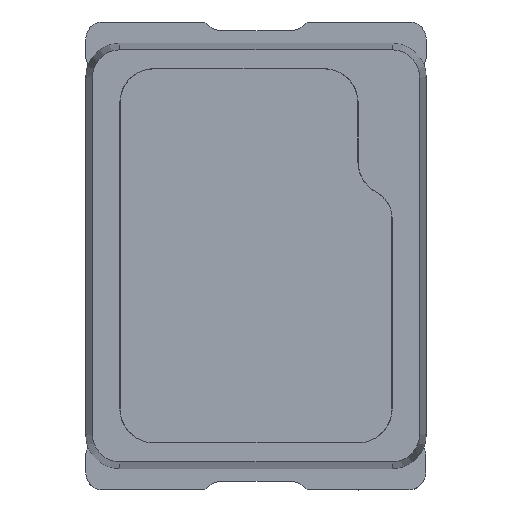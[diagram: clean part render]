
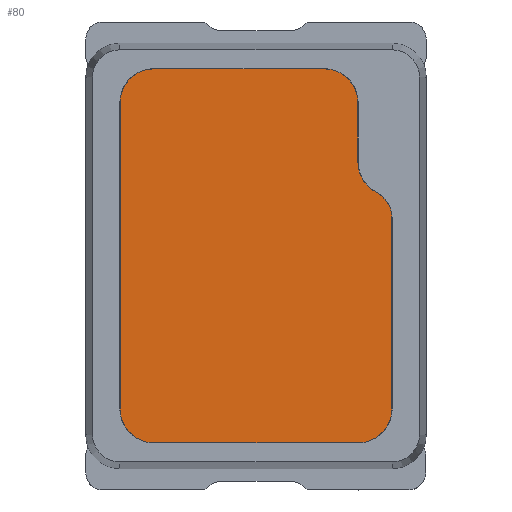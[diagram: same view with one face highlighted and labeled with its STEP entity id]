
A CAD part, top view. The second image highlights one B-rep face of the part: STEP entity #80.
In plain terms, the highlighted planar face has unit normal (0, 0, 1).
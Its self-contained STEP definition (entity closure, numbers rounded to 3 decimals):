
#80=ADVANCED_FACE('',(#173),#174,.T.);
#173=FACE_OUTER_BOUND('',#348,.T.);
#174=PLANE('',#349);
#348=EDGE_LOOP('',(#548,#549,#550,#551,#552,#553,#554,#555,#556,#557,#558,#559));
#349=AXIS2_PLACEMENT_3D('',#560,#561,#562);
#548=ORIENTED_EDGE('',*,*,#1282,.F.);
#549=ORIENTED_EDGE('',*,*,#1283,.F.);
#550=ORIENTED_EDGE('',*,*,#1284,.F.);
#551=ORIENTED_EDGE('',*,*,#1285,.F.);
#552=ORIENTED_EDGE('',*,*,#1286,.F.);
#553=ORIENTED_EDGE('',*,*,#1287,.F.);
#554=ORIENTED_EDGE('',*,*,#1288,.F.);
#555=ORIENTED_EDGE('',*,*,#1289,.F.);
#556=ORIENTED_EDGE('',*,*,#1290,.F.);
#557=ORIENTED_EDGE('',*,*,#1291,.F.);
#558=ORIENTED_EDGE('',*,*,#1292,.F.);
#559=ORIENTED_EDGE('',*,*,#1293,.F.);
#560=CARTESIAN_POINT('',(0.,0.,-0.01));
#561=DIRECTION('',(0.0,0.0,1.0));
#562=DIRECTION('',(0.,-1.0,0.0));
#1282=EDGE_CURVE('',#1546,#1547,#1548,.T.);
#1283=EDGE_CURVE('',#1549,#1546,#1550,.T.);
#1284=EDGE_CURVE('',#1551,#1549,#1552,.T.);
#1285=EDGE_CURVE('',#1553,#1551,#1554,.T.);
#1286=EDGE_CURVE('',#1555,#1553,#1556,.T.);
#1287=EDGE_CURVE('',#1557,#1555,#1558,.T.);
#1288=EDGE_CURVE('',#1559,#1557,#1560,.T.);
#1289=EDGE_CURVE('',#1561,#1559,#1562,.T.);
#1290=EDGE_CURVE('',#1563,#1561,#1564,.T.);
#1291=EDGE_CURVE('',#1565,#1563,#1566,.T.);
#1292=EDGE_CURVE('',#1567,#1565,#1568,.T.);
#1293=EDGE_CURVE('',#1547,#1567,#1569,.T.);
#1546=VERTEX_POINT('',#1960);
#1547=VERTEX_POINT('',#1961);
#1548=LINE('',#1962,#1963);
#1549=VERTEX_POINT('',#1964);
#1550=CIRCLE('',#1965,0.168);
#1551=VERTEX_POINT('',#1966);
#1552=LINE('',#1967,#1968);
#1553=VERTEX_POINT('',#1969);
#1554=CIRCLE('',#1970,0.199);
#1555=VERTEX_POINT('',#1971);
#1556=LINE('',#1972,#1973);
#1557=VERTEX_POINT('',#1974);
#1558=CIRCLE('',#1975,0.199);
#1559=VERTEX_POINT('',#1976);
#1560=LINE('',#1977,#1978);
#1561=VERTEX_POINT('',#1979);
#1562=CIRCLE('',#1980,0.199);
#1563=VERTEX_POINT('',#1981);
#1564=LINE('',#1982,#1983);
#1565=VERTEX_POINT('',#1984);
#1566=CIRCLE('',#1985,0.199);
#1567=VERTEX_POINT('',#1986);
#1568=LINE('',#1987,#1988);
#1569=CIRCLE('',#1989,0.199);
#1960=CARTESIAN_POINT('',(0.799,0.226,-0.01));
#1961=CARTESIAN_POINT('',(0.799,-0.9,-0.01));
#1962=CARTESIAN_POINT('',(0.799,0.226,-0.01));
#1963=VECTOR('',#2510,1.126);
#1964=CARTESIAN_POINT('',(0.714,0.369,-0.01));
#1965=AXIS2_PLACEMENT_3D('',#2511,#2512,#2513);
#1966=CARTESIAN_POINT('',(0.7,0.377,-0.01));
#1967=CARTESIAN_POINT('',(0.7,0.377,-0.01));
#1968=VECTOR('',#2514,0.016);
#1969=CARTESIAN_POINT('',(0.599,0.55,-0.01));
#1970=AXIS2_PLACEMENT_3D('',#2515,#2516,#2517);
#1971=CARTESIAN_POINT('',(0.599,0.9,-0.01));
#1972=CARTESIAN_POINT('',(0.599,0.9,-0.01));
#1973=VECTOR('',#2518,0.35);
#1974=CARTESIAN_POINT('',(0.4,1.099,-0.01));
#1975=AXIS2_PLACEMENT_3D('',#2519,#2520,#2521);
#1976=CARTESIAN_POINT('',(-0.6,1.099,-0.01));
#1977=CARTESIAN_POINT('',(-0.6,1.099,-0.01));
#1978=VECTOR('',#2522,1.);
#1979=CARTESIAN_POINT('',(-0.799,0.9,-0.01));
#1980=AXIS2_PLACEMENT_3D('',#2523,#2524,#2525);
#1981=CARTESIAN_POINT('',(-0.799,-0.9,-0.01));
#1982=CARTESIAN_POINT('',(-0.799,-0.9,-0.01));
#1983=VECTOR('',#2526,1.8);
#1984=CARTESIAN_POINT('',(-0.6,-1.099,-0.01));
#1985=AXIS2_PLACEMENT_3D('',#2527,#2528,#2529);
#1986=CARTESIAN_POINT('',(0.6,-1.099,-0.01));
#1987=CARTESIAN_POINT('',(0.6,-1.099,-0.01));
#1988=VECTOR('',#2530,1.2);
#1989=AXIS2_PLACEMENT_3D('',#2531,#2532,#2533);
#2510=DIRECTION('',(0.,-1.0,0.0));
#2511=CARTESIAN_POINT('',(0.631,0.223,-0.01));
#2512=DIRECTION('',(-0.0,0.0,-1.0));
#2513=DIRECTION('',(-1.,-0.019,0.0));
#2514=DIRECTION('',(0.87,-0.493,0.0));
#2515=CARTESIAN_POINT('',(0.798,0.55,-0.01));
#2516=DIRECTION('',(0.0,0.0,1.0));
#2517=DIRECTION('',(-1.0,0.,0.0));
#2518=DIRECTION('',(0.,-1.0,0.0));
#2519=CARTESIAN_POINT('',(0.4,0.9,-0.01));
#2520=DIRECTION('',(-0.0,0.0,-1.0));
#2521=DIRECTION('',(-1.0,0.,0.0));
#2522=DIRECTION('',(1.0,0.,0.0));
#2523=CARTESIAN_POINT('',(-0.6,0.9,-0.01));
#2524=DIRECTION('',(0.0,0.0,-1.0));
#2525=DIRECTION('',(0.,-1.0,0.0));
#2526=DIRECTION('',(0.,1.0,0.0));
#2527=CARTESIAN_POINT('',(-0.6,-0.9,-0.01));
#2528=DIRECTION('',(0.0,0.0,-1.0));
#2529=DIRECTION('',(1.0,0.,0.0));
#2530=DIRECTION('',(-1.0,0.,0.0));
#2531=CARTESIAN_POINT('',(0.6,-0.9,-0.01));
#2532=DIRECTION('',(0.0,0.0,-1.0));
#2533=DIRECTION('',(0.,1.0,0.0));
